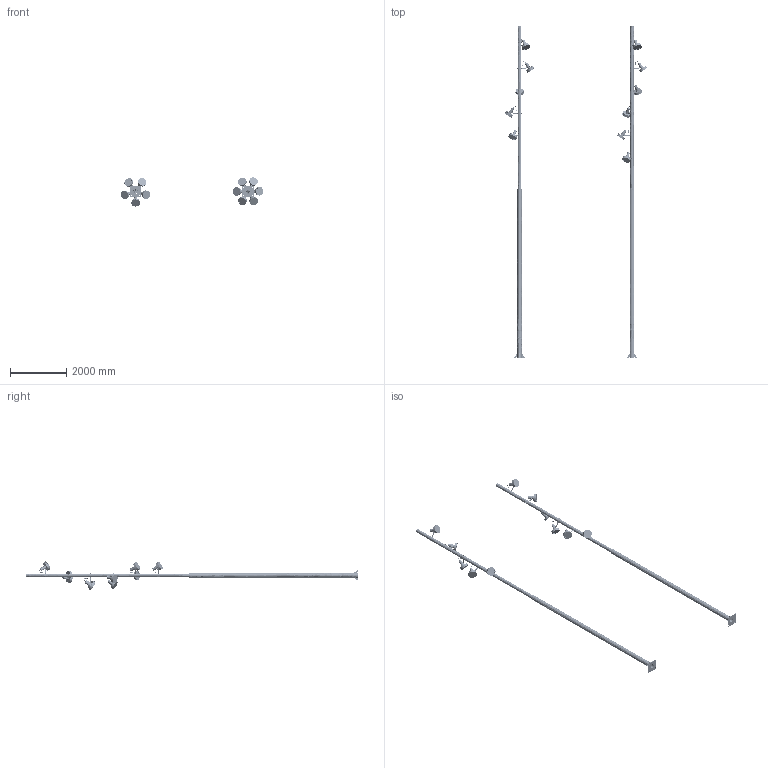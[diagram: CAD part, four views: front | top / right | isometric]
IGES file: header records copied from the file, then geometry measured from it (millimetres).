
Start section: SolidWorks IGES file using analytic representation for surfaces
Global section: file name: C:\SANTACOLE_PDM\Proyectos Catálogo\PROD-P12-019 -- ARNE PROYECTOR LED\6_Técnico comercial\3D WEB\IGES\Arne Columna 11,8m 2S 5L-Columna 11,8m 2S 6L.IGS; native system: SolidWorks 2013; preprocessor: SolidWorks 2013; author: jordi.munoz; date: 150508.140321; units: millimetre
Bounding box: 5062.96 x 11800 x 1036.27 mm (x, y, z)
Surface area: 30453896.7 mm2 (no closed solid volume)
Topology: 0 solids, 0 shells, 28942 faces, 250927 edges, 249031 vertices
Faces by surface type: bspline 19223, revolution 9719
